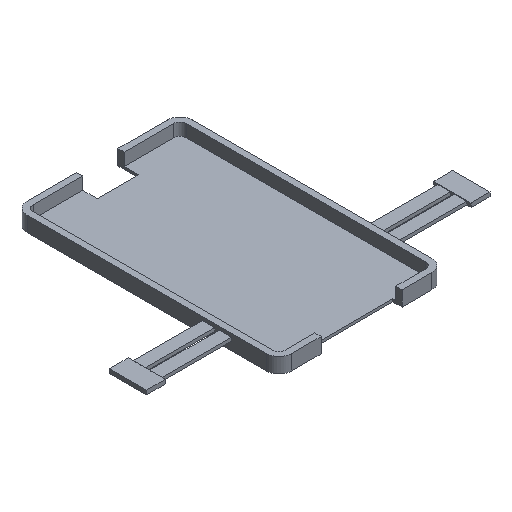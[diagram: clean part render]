
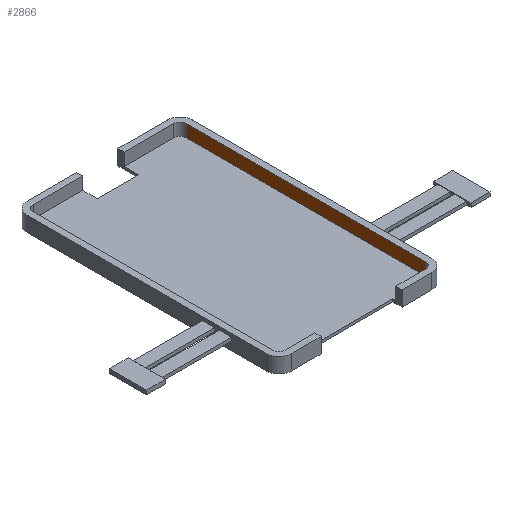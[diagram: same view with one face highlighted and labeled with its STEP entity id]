
A CAD part, isometric view. The second image highlights one B-rep face of the part: STEP entity #2866.
In plain terms, the highlighted planar face has unit normal (-1, 0, 0).
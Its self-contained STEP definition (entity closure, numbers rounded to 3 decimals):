
#1032 = PLANE('',#1033);
#1033 = AXIS2_PLACEMENT_3D('',#1034,#1035,#1036);
#1034 = CARTESIAN_POINT('',(-20.,-43.,2.02));
#1035 = DIRECTION('',(0.,0.,1.));
#1036 = DIRECTION('',(1.,0.,0.));
#1684 = VERTEX_POINT('',#1685);
#1685 = CARTESIAN_POINT('',(18.5,18.,2.02));
#1700 = CYLINDRICAL_SURFACE('',#1701,1.5);
#1701 = AXIS2_PLACEMENT_3D('',#1702,#1703,#1704);
#1702 = CARTESIAN_POINT('',(17.,18.,-1.18));
#1703 = DIRECTION('',(0.,0.,1.));
#1704 = DIRECTION('',(1.,0.,-0.));
#1712 = EDGE_CURVE('',#1713,#1684,#1715,.T.);
#1713 = VERTEX_POINT('',#1714);
#1714 = CARTESIAN_POINT('',(18.5,-40.,2.02));
#1715 = SURFACE_CURVE('',#1716,(#1720,#1727),.PCURVE_S1.);
#1716 = LINE('',#1717,#1718);
#1717 = CARTESIAN_POINT('',(18.5,-42.25,2.02));
#1718 = VECTOR('',#1719,1.);
#1719 = DIRECTION('',(0.,1.,0.));
#1720 = PCURVE('',#1032,#1721);
#1721 = DEFINITIONAL_REPRESENTATION('',(#1722),#1726);
#1722 = LINE('',#1723,#1724);
#1723 = CARTESIAN_POINT('',(38.5,0.75));
#1724 = VECTOR('',#1725,1.);
#1725 = DIRECTION('',(0.,1.));
#1726 = ( GEOMETRIC_REPRESENTATION_CONTEXT(2) 
PARAMETRIC_REPRESENTATION_CONTEXT() REPRESENTATION_CONTEXT('2D SPACE',''
  ) );
#1727 = PCURVE('',#1728,#1733);
#1728 = PLANE('',#1729);
#1729 = AXIS2_PLACEMENT_3D('',#1730,#1731,#1732);
#1730 = CARTESIAN_POINT('',(18.5,-41.5,-1.18));
#1731 = DIRECTION('',(1.,0.,0.));
#1732 = DIRECTION('',(0.,0.,1.));
#1733 = DEFINITIONAL_REPRESENTATION('',(#1734),#1738);
#1734 = LINE('',#1735,#1736);
#1735 = CARTESIAN_POINT('',(3.2,0.75));
#1736 = VECTOR('',#1737,1.);
#1737 = DIRECTION('',(0.,-1.));
#1738 = ( GEOMETRIC_REPRESENTATION_CONTEXT(2) 
PARAMETRIC_REPRESENTATION_CONTEXT() REPRESENTATION_CONTEXT('2D SPACE',''
  ) );
#1757 = CYLINDRICAL_SURFACE('',#1758,1.5);
#1758 = AXIS2_PLACEMENT_3D('',#1759,#1760,#1761);
#1759 = CARTESIAN_POINT('',(17.,-40.,-1.18));
#1760 = DIRECTION('',(0.,0.,1.));
#1761 = DIRECTION('',(1.,0.,-0.));
#2330 = PLANE('',#2331);
#2331 = AXIS2_PLACEMENT_3D('',#2332,#2333,#2334);
#2332 = CARTESIAN_POINT('',(-20.,-43.,-0.98));
#2333 = DIRECTION('',(0.,0.,1.));
#2334 = DIRECTION('',(1.,0.,0.));
#2820 = EDGE_CURVE('',#2821,#1713,#2823,.T.);
#2821 = VERTEX_POINT('',#2822);
#2822 = CARTESIAN_POINT('',(18.5,-40.,-0.98));
#2823 = SURFACE_CURVE('',#2824,(#2828,#2835),.PCURVE_S1.);
#2824 = LINE('',#2825,#2826);
#2825 = CARTESIAN_POINT('',(18.5,-40.,-1.18));
#2826 = VECTOR('',#2827,1.);
#2827 = DIRECTION('',(0.,0.,1.));
#2828 = PCURVE('',#1757,#2829);
#2829 = DEFINITIONAL_REPRESENTATION('',(#2830),#2834);
#2830 = LINE('',#2831,#2832);
#2831 = CARTESIAN_POINT('',(-0.,0.));
#2832 = VECTOR('',#2833,1.);
#2833 = DIRECTION('',(-0.,1.));
#2834 = ( GEOMETRIC_REPRESENTATION_CONTEXT(2) 
PARAMETRIC_REPRESENTATION_CONTEXT() REPRESENTATION_CONTEXT('2D SPACE',''
  ) );
#2835 = PCURVE('',#1728,#2836);
#2836 = DEFINITIONAL_REPRESENTATION('',(#2837),#2841);
#2837 = LINE('',#2838,#2839);
#2838 = CARTESIAN_POINT('',(0.,-1.5));
#2839 = VECTOR('',#2840,1.);
#2840 = DIRECTION('',(1.,0.));
#2841 = ( GEOMETRIC_REPRESENTATION_CONTEXT(2) 
PARAMETRIC_REPRESENTATION_CONTEXT() REPRESENTATION_CONTEXT('2D SPACE',''
  ) );
#2866 = ADVANCED_FACE('',(#2867),#1728,.F.);
#2867 = FACE_BOUND('',#2868,.F.);
#2868 = EDGE_LOOP('',(#2869,#2870,#2871,#2894));
#2869 = ORIENTED_EDGE('',*,*,#1712,.F.);
#2870 = ORIENTED_EDGE('',*,*,#2820,.F.);
#2871 = ORIENTED_EDGE('',*,*,#2872,.T.);
#2872 = EDGE_CURVE('',#2821,#2873,#2875,.T.);
#2873 = VERTEX_POINT('',#2874);
#2874 = CARTESIAN_POINT('',(18.5,18.,-0.98));
#2875 = SURFACE_CURVE('',#2876,(#2880,#2887),.PCURVE_S1.);
#2876 = LINE('',#2877,#2878);
#2877 = CARTESIAN_POINT('',(18.5,-42.25,-0.98));
#2878 = VECTOR('',#2879,1.);
#2879 = DIRECTION('',(0.,1.,0.));
#2880 = PCURVE('',#1728,#2881);
#2881 = DEFINITIONAL_REPRESENTATION('',(#2882),#2886);
#2882 = LINE('',#2883,#2884);
#2883 = CARTESIAN_POINT('',(0.2,0.75));
#2884 = VECTOR('',#2885,1.);
#2885 = DIRECTION('',(0.,-1.));
#2886 = ( GEOMETRIC_REPRESENTATION_CONTEXT(2) 
PARAMETRIC_REPRESENTATION_CONTEXT() REPRESENTATION_CONTEXT('2D SPACE',''
  ) );
#2887 = PCURVE('',#2330,#2888);
#2888 = DEFINITIONAL_REPRESENTATION('',(#2889),#2893);
#2889 = LINE('',#2890,#2891);
#2890 = CARTESIAN_POINT('',(38.5,0.75));
#2891 = VECTOR('',#2892,1.);
#2892 = DIRECTION('',(0.,1.));
#2893 = ( GEOMETRIC_REPRESENTATION_CONTEXT(2) 
PARAMETRIC_REPRESENTATION_CONTEXT() REPRESENTATION_CONTEXT('2D SPACE',''
  ) );
#2894 = ORIENTED_EDGE('',*,*,#2895,.T.);
#2895 = EDGE_CURVE('',#2873,#1684,#2896,.T.);
#2896 = SURFACE_CURVE('',#2897,(#2901,#2908),.PCURVE_S1.);
#2897 = LINE('',#2898,#2899);
#2898 = CARTESIAN_POINT('',(18.5,18.,-1.18));
#2899 = VECTOR('',#2900,1.);
#2900 = DIRECTION('',(0.,0.,1.));
#2901 = PCURVE('',#1728,#2902);
#2902 = DEFINITIONAL_REPRESENTATION('',(#2903),#2907);
#2903 = LINE('',#2904,#2905);
#2904 = CARTESIAN_POINT('',(0.,-59.5));
#2905 = VECTOR('',#2906,1.);
#2906 = DIRECTION('',(1.,0.));
#2907 = ( GEOMETRIC_REPRESENTATION_CONTEXT(2) 
PARAMETRIC_REPRESENTATION_CONTEXT() REPRESENTATION_CONTEXT('2D SPACE',''
  ) );
#2908 = PCURVE('',#1700,#2909);
#2909 = DEFINITIONAL_REPRESENTATION('',(#2910),#2914);
#2910 = LINE('',#2911,#2912);
#2911 = CARTESIAN_POINT('',(0.,0.));
#2912 = VECTOR('',#2913,1.);
#2913 = DIRECTION('',(0.,1.));
#2914 = ( GEOMETRIC_REPRESENTATION_CONTEXT(2) 
PARAMETRIC_REPRESENTATION_CONTEXT() REPRESENTATION_CONTEXT('2D SPACE',''
  ) );
